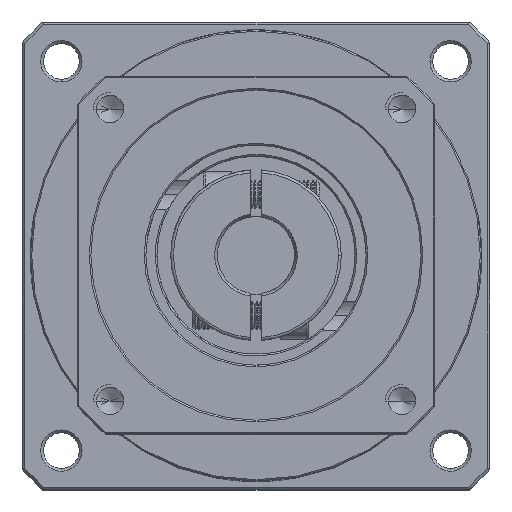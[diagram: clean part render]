
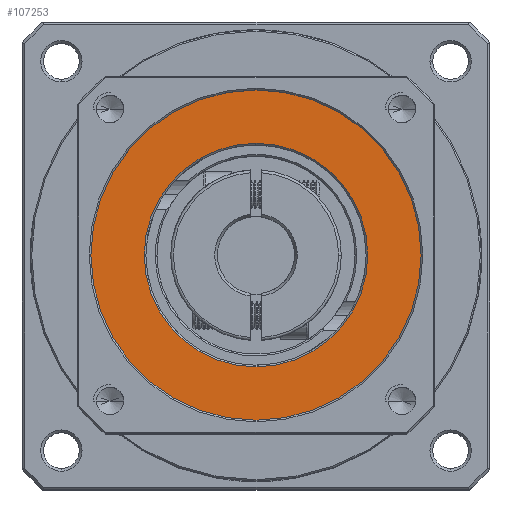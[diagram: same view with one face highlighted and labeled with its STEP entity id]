
A CAD part, top view. The second image highlights one B-rep face of the part: STEP entity #107253.
In plain terms, the highlighted planar face has unit normal (0, 0, 1).
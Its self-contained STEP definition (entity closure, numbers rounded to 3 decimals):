
#695 = EDGE_CURVE ( 'NONE', #11642, #82130, #14576, .T. ) ;
#3905 = CIRCLE ( 'NONE', #88311, 30. ) ;
#9446 = DIRECTION ( 'NONE',  ( 0., 0., 1. ) ) ;
#11642 = VERTEX_POINT ( 'NONE', #100353 ) ;
#14576 = CIRCLE ( 'NONE', #26932, 30. ) ;
#16108 = AXIS2_PLACEMENT_3D ( 'NONE', #44900, #109716, #54237 ) ;
#16403 = DIRECTION ( 'NONE',  ( 0., 0., 1. ) ) ;
#21224 = ORIENTED_EDGE ( 'NONE', *, *, #92181, .T. ) ;
#21369 = DIRECTION ( 'NONE',  ( 0., 0., -1. ) ) ;
#26932 = AXIS2_PLACEMENT_3D ( 'NONE', #64768, #9446, #74074 ) ;
#31613 = EDGE_LOOP ( 'NONE', ( #21224, #67295 ) ) ;
#34897 = CARTESIAN_POINT ( 'NONE',  ( -90.448, 22.673, 13.877 ) ) ;
#38837 = CARTESIAN_POINT ( 'NONE',  ( -70.148, 22.673, 13.877 ) ) ;
#39785 = CIRCLE ( 'NONE', #16108, 20.3 ) ;
#44900 = CARTESIAN_POINT ( 'NONE',  ( -70.148, 22.673, 13.877 ) ) ;
#46582 = EDGE_CURVE ( 'NONE', #82130, #11642, #3905, .T. ) ;
#48096 = DIRECTION ( 'NONE',  ( 1., 0., 0. ) ) ;
#51338 = FACE_OUTER_BOUND ( 'NONE', #116912, .T. ) ;
#54237 = DIRECTION ( 'NONE',  ( 1., 0., 0. ) ) ;
#54616 = CIRCLE ( 'NONE', #112900, 20.3 ) ;
#64768 = CARTESIAN_POINT ( 'NONE',  ( -70.148, 22.673, 13.877 ) ) ;
#67295 = ORIENTED_EDGE ( 'NONE', *, *, #98355, .T. ) ;
#71731 = CARTESIAN_POINT ( 'NONE',  ( -70.148, 22.673, 13.877 ) ) ;
#74074 = DIRECTION ( 'NONE',  ( 1., 0., 0. ) ) ;
#75816 = CARTESIAN_POINT ( 'NONE',  ( -49.848, 22.673, 13.877 ) ) ;
#76717 = CARTESIAN_POINT ( 'NONE',  ( -70.148, 22.673, 13.877 ) ) ;
#80260 = PLANE ( 'NONE',  #90172 ) ;
#81069 = DIRECTION ( 'NONE',  ( 1., 0., 0. ) ) ;
#82130 = VERTEX_POINT ( 'NONE', #102543 ) ;
#86064 = DIRECTION ( 'NONE',  ( 1., 0., 0. ) ) ;
#88311 = AXIS2_PLACEMENT_3D ( 'NONE', #38837, #103637, #48096 ) ;
#90172 = AXIS2_PLACEMENT_3D ( 'NONE', #71731, #16403, #81069 ) ;
#92181 = EDGE_CURVE ( 'NONE', #102018, #104790, #39785, .T. ) ;
#92948 = ORIENTED_EDGE ( 'NONE', *, *, #695, .T. ) ;
#98355 = EDGE_CURVE ( 'NONE', #104790, #102018, #54616, .T. ) ;
#100353 = CARTESIAN_POINT ( 'NONE',  ( -100.148, 22.673, 13.877 ) ) ;
#100731 = FACE_BOUND ( 'NONE', #31613, .T. ) ;
#102018 = VERTEX_POINT ( 'NONE', #75816 ) ;
#102543 = CARTESIAN_POINT ( 'NONE',  ( -40.148, 22.673, 13.877 ) ) ;
#103637 = DIRECTION ( 'NONE',  ( 0., 0., 1. ) ) ;
#104033 = ORIENTED_EDGE ( 'NONE', *, *, #46582, .T. ) ;
#104790 = VERTEX_POINT ( 'NONE', #34897 ) ;
#107253 = ADVANCED_FACE ( 'NONE', ( #100731, #51338 ), #80260, .T. ) ;
#109716 = DIRECTION ( 'NONE',  ( 0., 0., -1. ) ) ;
#112900 = AXIS2_PLACEMENT_3D ( 'NONE', #76717, #21369, #86064 ) ;
#116912 = EDGE_LOOP ( 'NONE', ( #104033, #92948 ) ) ;
